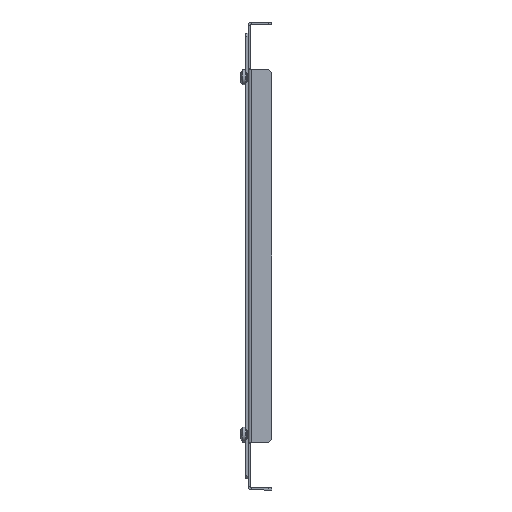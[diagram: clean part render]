
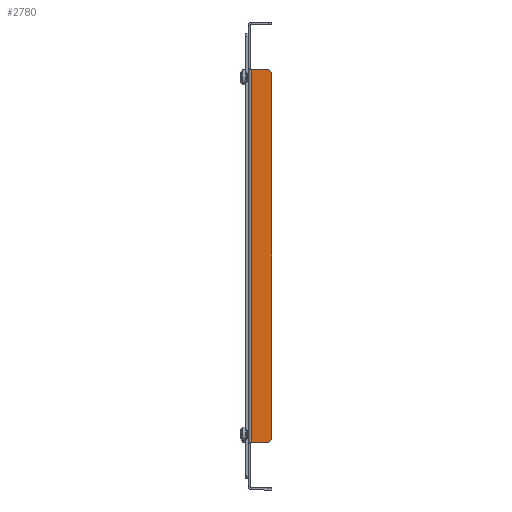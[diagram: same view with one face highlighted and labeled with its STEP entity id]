
A CAD part, left-side view. The second image highlights one B-rep face of the part: STEP entity #2780.
In plain terms, the highlighted planar face has unit normal (-1, 0, 0).
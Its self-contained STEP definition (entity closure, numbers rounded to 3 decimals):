
#118 = CARTESIAN_POINT ( 'NONE',  ( -14., -15., 118. ) ) ;
#129 = ORIENTED_EDGE ( 'NONE', *, *, #5397, .F. ) ;
#346 = VERTEX_POINT ( 'NONE', #4701 ) ;
#357 = DIRECTION ( 'NONE',  ( 0., 0.707, 0.707 ) ) ;
#527 = CARTESIAN_POINT ( 'NONE',  ( -14., -15., -118. ) ) ;
#606 = LINE ( 'NONE', #4933, #1676 ) ;
#683 = CARTESIAN_POINT ( 'NONE',  ( -14., -15., -116. ) ) ;
#698 = DIRECTION ( 'NONE',  ( 0., 1., 0. ) ) ;
#928 = AXIS2_PLACEMENT_3D ( 'NONE', #1583, #3410, #698 ) ;
#1082 = CARTESIAN_POINT ( 'NONE',  ( -14., -15., 116. ) ) ;
#1093 = LINE ( 'NONE', #527, #2011 ) ;
#1102 = FACE_OUTER_BOUND ( 'NONE', #3409, .T. ) ;
#1112 = VECTOR ( 'NONE', #357, 1000. ) ;
#1153 = EDGE_CURVE ( 'NONE', #4453, #1537, #4315, .T. ) ;
#1449 = VECTOR ( 'NONE', #4734, 1000. ) ;
#1537 = VERTEX_POINT ( 'NONE', #3573 ) ;
#1583 = CARTESIAN_POINT ( 'NONE',  ( -14., 0., 0. ) ) ;
#1676 = VECTOR ( 'NONE', #2220, 1000. ) ;
#1836 = ORIENTED_EDGE ( 'NONE', *, *, #2243, .T. ) ;
#2011 = VECTOR ( 'NONE', #4608, 1000. ) ;
#2220 = DIRECTION ( 'NONE',  ( 0., 0., 1. ) ) ;
#2243 = EDGE_CURVE ( 'NONE', #4453, #2624, #2740, .T. ) ;
#2295 = ORIENTED_EDGE ( 'NONE', *, *, #1153, .F. ) ;
#2411 = CARTESIAN_POINT ( 'NONE',  ( -14., -1.5, 118. ) ) ;
#2485 = PLANE ( 'NONE',  #928 ) ;
#2534 = VERTEX_POINT ( 'NONE', #3245 ) ;
#2624 = VERTEX_POINT ( 'NONE', #4632 ) ;
#2740 = LINE ( 'NONE', #3984, #1112 ) ;
#2780 = ADVANCED_FACE ( 'NONE', ( #1102 ), #2485, .F. ) ;
#2870 = DIRECTION ( 'NONE',  ( 0., -1., 0. ) ) ;
#2957 = VECTOR ( 'NONE', #2870, 1000. ) ;
#3104 = EDGE_CURVE ( 'NONE', #3967, #346, #606, .T. ) ;
#3245 = CARTESIAN_POINT ( 'NONE',  ( -14., -13., -118. ) ) ;
#3247 = VECTOR ( 'NONE', #3281, 1000. ) ;
#3281 = DIRECTION ( 'NONE',  ( 0., 0., -1. ) ) ;
#3328 = ORIENTED_EDGE ( 'NONE', *, *, #3104, .F. ) ;
#3369 = CARTESIAN_POINT ( 'NONE',  ( -14., -2.1, -118. ) ) ;
#3409 = EDGE_LOOP ( 'NONE', ( #129, #3594, #2295, #1836, #4244, #3328 ) ) ;
#3410 = DIRECTION ( 'NONE',  ( 1., 0., 0. ) ) ;
#3573 = CARTESIAN_POINT ( 'NONE',  ( -14., -15., -116. ) ) ;
#3594 = ORIENTED_EDGE ( 'NONE', *, *, #5009, .T. ) ;
#3967 = VERTEX_POINT ( 'NONE', #3369 ) ;
#3984 = CARTESIAN_POINT ( 'NONE',  ( -14., -13., 118. ) ) ;
#4148 = LINE ( 'NONE', #2411, #2957 ) ;
#4244 = ORIENTED_EDGE ( 'NONE', *, *, #4394, .F. ) ;
#4315 = LINE ( 'NONE', #118, #3247 ) ;
#4394 = EDGE_CURVE ( 'NONE', #346, #2624, #4148, .T. ) ;
#4453 = VERTEX_POINT ( 'NONE', #1082 ) ;
#4608 = DIRECTION ( 'NONE',  ( 0., 1., 0. ) ) ;
#4632 = CARTESIAN_POINT ( 'NONE',  ( -14., -13., 118. ) ) ;
#4701 = CARTESIAN_POINT ( 'NONE',  ( -14., -2.1, 118. ) ) ;
#4734 = DIRECTION ( 'NONE',  ( 0., -0.707, 0.707 ) ) ;
#4933 = CARTESIAN_POINT ( 'NONE',  ( -14., -2.1, 118. ) ) ;
#5009 = EDGE_CURVE ( 'NONE', #2534, #1537, #5051, .T. ) ;
#5051 = LINE ( 'NONE', #683, #1449 ) ;
#5397 = EDGE_CURVE ( 'NONE', #2534, #3967, #1093, .T. ) ;
